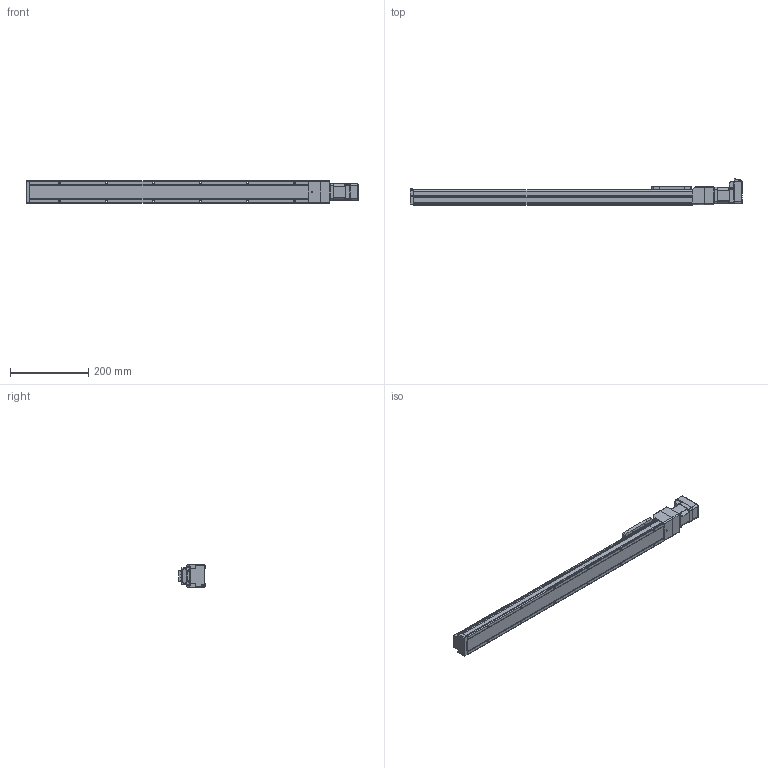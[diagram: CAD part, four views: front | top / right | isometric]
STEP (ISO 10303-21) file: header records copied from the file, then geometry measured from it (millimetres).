
FILE_DESCRIPTION (( 'STEP AP214' ), '1' );
FILE_NAME ('LEFS3(+)-25NM1Œû-600-17L.STEP', '2023-05-31T02:37:22', ( '' ), ( '' ), 'SwSTEP 2.0', 'SolidWorks 2019', '' );
FILE_SCHEMA (( 'AUTOMOTIVE_DESIGN' ));
Length unit declared in the file: millimetre
Products named in the file (5): LEFS3(+)-25NM1口-600-17L; LEFS3(+)-25NM1_TABLE; CM3(+)-17L50A; LEFS3(+)-25NM1_MOTOR Flange; LEFS3(+)-25NM1仩_BODY_600
Assembly tree (4 placements, depth 2):
  LEFS3(+)-25NM1口-600-17L
    LEFS3(+)-25NM1仩_BODY_600
    LEFS3(+)-25NM1_TABLE
    LEFS3(+)-25NM1_MOTOR Flange
    CM3(+)-17L50A
Bounding box: 847.3 x 66.75 x 58 mm (x, y, z)
Volume: 1658710.9 mm3; surface area: 208732.6 mm2
Topology: 5 solids, 5 shells, 1003 faces, 2590 edges, 1632 vertices
Faces by surface type: plane 513, cylinder 318, cone 83, torus 39, bspline 29, sphere 21
Entity records: 40676 total; most frequent: CARTESIAN_POINT 7416, ORIENTED_EDGE 5118, DIRECTION 4938, EDGE_CURVE 2559, AXIS2_PLACEMENT_3D 1666, VERTEX_POINT 1632, VECTOR 1606, LINE 1606
